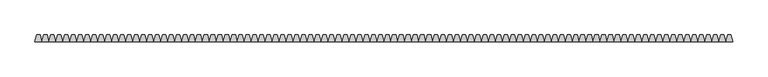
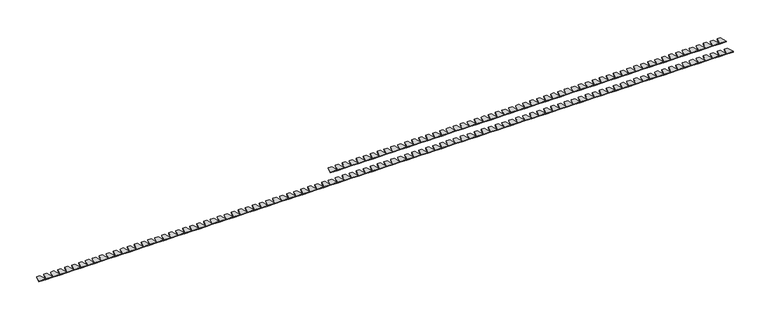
"""IFC4 building model written with IfcOpenShell, lengths in millimetres: duct fitting geometry, Частичная крышка шириной 40 мм - для кабель-канала DLP 65x195 - 2м - белый : 40мм."""

from ifc_helpers import new_model, si_unit, frame, origin, place, context, project, spatial, polyline, outline, extrude, source, transform, mapped, element, save


def duct_fitting_c62ac4ad(model_context):
    return source(origin(), model_context, "Body", "SweptSolid", [
        extrude(outline(polyline([(974.6410162, 20.0), (980.0, 0.0), (960.0, 0.0), (965.7349077, 20.0), (974.6410162, 20.0)])), frame((0.0, 0.0, -20.0), z_axis=(0.0, 0.0, 1.0), x_axis=(1.0, 0.0, 0.0)), (0.0, 0.0, 1.0), 2.0),
        extrude(outline(polyline([(954.6410162, 20.0), (960.0, 0.0), (940.0, 0.0), (945.7349077, 20.0), (954.6410162, 20.0)])), frame((0.0, 0.0, -20.0), z_axis=(0.0, 0.0, 1.0), x_axis=(1.0, 0.0, 0.0)), (0.0, 0.0, 1.0), 2.0),
        extrude(outline(polyline([(934.6410162, 20.0), (940.0, 0.0), (920.0, 0.0), (925.7349077, 20.0), (934.6410162, 20.0)])), frame((0.0, 0.0, -20.0), z_axis=(0.0, 0.0, 1.0), x_axis=(1.0, 0.0, 0.0)), (0.0, 0.0, 1.0), 2.0),
        extrude(outline(polyline([(914.6410162, 20.0), (920.0, 0.0), (900.0, 0.0), (905.7349077, 20.0), (914.6410162, 20.0)])), frame((0.0, 0.0, -20.0), z_axis=(0.0, 0.0, 1.0), x_axis=(1.0, 0.0, 0.0)), (0.0, 0.0, 1.0), 2.0),
        extrude(outline(polyline([(894.6410162, 20.0), (900.0, 0.0), (880.0, 0.0), (885.7349077, 20.0), (894.6410162, 20.0)])), frame((0.0, 0.0, -20.0), z_axis=(0.0, 0.0, 1.0), x_axis=(1.0, 0.0, 0.0)), (0.0, 0.0, 1.0), 2.0),
        extrude(outline(polyline([(874.6410162, 20.0), (880.0, 0.0), (860.0, 0.0), (865.7349077, 20.0), (874.6410162, 20.0)])), frame((0.0, 0.0, -20.0), z_axis=(0.0, 0.0, 1.0), x_axis=(1.0, 0.0, 0.0)), (0.0, 0.0, 1.0), 2.0),
        extrude(outline(polyline([(854.6410162, 20.0), (860.0, 0.0), (840.0, 0.0), (845.7349077, 20.0), (854.6410162, 20.0)])), frame((0.0, 0.0, -20.0), z_axis=(0.0, 0.0, 1.0), x_axis=(1.0, 0.0, 0.0)), (0.0, 0.0, 1.0), 2.0),
        extrude(outline(polyline([(834.6410162, 20.0), (840.0, 0.0), (820.0, 0.0), (825.7349077, 20.0), (834.6410162, 20.0)])), frame((0.0, 0.0, -20.0), z_axis=(0.0, 0.0, 1.0), x_axis=(1.0, 0.0, 0.0)), (0.0, 0.0, 1.0), 2.0),
        extrude(outline(polyline([(814.6410162, 20.0), (820.0, 0.0), (800.0, 0.0), (805.7349077, 20.0), (814.6410162, 20.0)])), frame((0.0, 0.0, -20.0), z_axis=(0.0, 0.0, 1.0), x_axis=(1.0, 0.0, 0.0)), (0.0, 0.0, 1.0), 2.0),
        extrude(outline(polyline([(794.6410162, 20.0), (800.0, 0.0), (780.0, 0.0), (785.7349077, 20.0), (794.6410162, 20.0)])), frame((0.0, 0.0, -20.0), z_axis=(0.0, 0.0, 1.0), x_axis=(1.0, 0.0, 0.0)), (0.0, 0.0, 1.0), 2.0),
        extrude(outline(polyline([(774.6410162, 20.0), (780.0, 0.0), (760.0, 0.0), (765.7349077, 20.0), (774.6410162, 20.0)])), frame((0.0, 0.0, -20.0), z_axis=(0.0, 0.0, 1.0), x_axis=(1.0, 0.0, 0.0)), (0.0, 0.0, 1.0), 2.0),
        extrude(outline(polyline([(754.6410162, 20.0), (760.0, 0.0), (740.0, 0.0), (745.7349077, 20.0), (754.6410162, 20.0)])), frame((0.0, 0.0, -20.0), z_axis=(0.0, 0.0, 1.0), x_axis=(1.0, 0.0, 0.0)), (0.0, 0.0, 1.0), 2.0),
        extrude(outline(polyline([(734.6410162, 20.0), (740.0, 0.0), (720.0, 0.0), (725.7349077, 20.0), (734.6410162, 20.0)])), frame((0.0, 0.0, -20.0), z_axis=(0.0, 0.0, 1.0), x_axis=(1.0, 0.0, 0.0)), (0.0, 0.0, 1.0), 2.0),
        extrude(outline(polyline([(714.6410162, 20.0), (720.0, 0.0), (700.0, 0.0), (705.7349077, 20.0), (714.6410162, 20.0)])), frame((0.0, 0.0, -20.0), z_axis=(0.0, 0.0, 1.0), x_axis=(1.0, 0.0, 0.0)), (0.0, 0.0, 1.0), 2.0),
        extrude(outline(polyline([(694.6410162, 20.0), (700.0, 0.0), (680.0, 0.0), (685.7349077, 20.0), (694.6410162, 20.0)])), frame((0.0, 0.0, -20.0), z_axis=(0.0, 0.0, 1.0), x_axis=(1.0, 0.0, 0.0)), (0.0, 0.0, 1.0), 2.0),
        extrude(outline(polyline([(674.6410162, 20.0), (680.0, 0.0), (660.0, 0.0), (665.7349077, 20.0), (674.6410162, 20.0)])), frame((0.0, 0.0, -20.0), z_axis=(0.0, 0.0, 1.0), x_axis=(1.0, 0.0, 0.0)), (0.0, 0.0, 1.0), 2.0),
        extrude(outline(polyline([(654.6410162, 20.0), (660.0, 0.0), (640.0, 0.0), (645.7349077, 20.0), (654.6410162, 20.0)])), frame((0.0, 0.0, -20.0), z_axis=(0.0, 0.0, 1.0), x_axis=(1.0, 0.0, 0.0)), (0.0, 0.0, 1.0), 2.0),
        extrude(outline(polyline([(634.6410162, 20.0), (640.0, 0.0), (620.0, 0.0), (625.7349077, 20.0), (634.6410162, 20.0)])), frame((0.0, 0.0, -20.0), z_axis=(0.0, 0.0, 1.0), x_axis=(1.0, 0.0, 0.0)), (0.0, 0.0, 1.0), 2.0),
        extrude(outline(polyline([(614.6410162, 20.0), (620.0, 0.0), (600.0, 0.0), (605.7349077, 20.0), (614.6410162, 20.0)])), frame((0.0, 0.0, -20.0), z_axis=(0.0, 0.0, 1.0), x_axis=(1.0, 0.0, 0.0)), (0.0, 0.0, 1.0), 2.0),
        extrude(outline(polyline([(594.6410162, 20.0), (600.0, 0.0), (580.0, 0.0), (585.7349077, 20.0), (594.6410162, 20.0)])), frame((0.0, 0.0, -20.0), z_axis=(0.0, 0.0, 1.0), x_axis=(1.0, 0.0, 0.0)), (0.0, 0.0, 1.0), 2.0),
        extrude(outline(polyline([(574.6410162, 20.0), (580.0, 0.0), (560.0, 0.0), (565.7349077, 20.0), (574.6410162, 20.0)])), frame((0.0, 0.0, -20.0), z_axis=(0.0, 0.0, 1.0), x_axis=(1.0, 0.0, 0.0)), (0.0, 0.0, 1.0), 2.0),
        extrude(outline(polyline([(554.6410162, 20.0), (560.0, 0.0), (540.0, 0.0), (545.7349077, 20.0), (554.6410162, 20.0)])), frame((0.0, 0.0, -20.0), z_axis=(0.0, 0.0, 1.0), x_axis=(1.0, 0.0, 0.0)), (0.0, 0.0, 1.0), 2.0),
        extrude(outline(polyline([(534.6410162, 20.0), (540.0, 0.0), (520.0, 0.0), (525.7349077, 20.0), (534.6410162, 20.0)])), frame((0.0, 0.0, -20.0), z_axis=(0.0, 0.0, 1.0), x_axis=(1.0, 0.0, 0.0)), (0.0, 0.0, 1.0), 2.0),
        extrude(outline(polyline([(514.6410162, 20.0), (520.0, 0.0), (500.0, 0.0), (505.7349077, 20.0), (514.6410162, 20.0)])), frame((0.0, 0.0, -20.0), z_axis=(0.0, 0.0, 1.0), x_axis=(1.0, 0.0, 0.0)), (0.0, 0.0, 1.0), 2.0),
        extrude(outline(polyline([(494.6410162, 20.0), (500.0, 0.0), (480.0, 0.0), (485.7349077, 20.0), (494.6410162, 20.0)])), frame((0.0, 0.0, -20.0), z_axis=(0.0, 0.0, 1.0), x_axis=(1.0, 0.0, 0.0)), (0.0, 0.0, 1.0), 2.0),
        extrude(outline(polyline([(474.6410162, 20.0), (480.0, 0.0), (460.0, 0.0), (465.7349077, 20.0), (474.6410162, 20.0)])), frame((0.0, 0.0, -20.0), z_axis=(0.0, 0.0, 1.0), x_axis=(1.0, 0.0, 0.0)), (0.0, 0.0, 1.0), 2.0),
        extrude(outline(polyline([(454.6410162, 20.0), (460.0, 0.0), (440.0, 0.0), (445.7349077, 20.0), (454.6410162, 20.0)])), frame((0.0, 0.0, -20.0), z_axis=(0.0, 0.0, 1.0), x_axis=(1.0, 0.0, 0.0)), (0.0, 0.0, 1.0), 2.0),
        extrude(outline(polyline([(434.6410162, 20.0), (440.0, 0.0), (420.0, 0.0), (425.7349077, 20.0), (434.6410162, 20.0)])), frame((0.0, 0.0, -20.0), z_axis=(0.0, 0.0, 1.0), x_axis=(1.0, 0.0, 0.0)), (0.0, 0.0, 1.0), 2.0),
        extrude(outline(polyline([(414.6410162, 20.0), (420.0, 0.0), (400.0, 0.0), (405.7349077, 20.0), (414.6410162, 20.0)])), frame((0.0, 0.0, -20.0), z_axis=(0.0, 0.0, 1.0), x_axis=(1.0, 0.0, 0.0)), (0.0, 0.0, 1.0), 2.0),
        extrude(outline(polyline([(394.6410162, 20.0), (400.0, 0.0), (380.0, 0.0), (385.7349077, 20.0), (394.6410162, 20.0)])), frame((0.0, 0.0, -20.0), z_axis=(0.0, 0.0, 1.0), x_axis=(1.0, 0.0, 0.0)), (0.0, 0.0, 1.0), 2.0),
        extrude(outline(polyline([(374.6410162, 20.0), (380.0, 0.0), (360.0, 0.0), (365.7349077, 20.0), (374.6410162, 20.0)])), frame((0.0, 0.0, -20.0), z_axis=(0.0, 0.0, 1.0), x_axis=(1.0, 0.0, 0.0)), (0.0, 0.0, 1.0), 2.0),
        extrude(outline(polyline([(354.6410162, 20.0), (360.0, 0.0), (340.0, 0.0), (345.7349077, 20.0), (354.6410162, 20.0)])), frame((0.0, 0.0, -20.0), z_axis=(0.0, 0.0, 1.0), x_axis=(1.0, 0.0, 0.0)), (0.0, 0.0, 1.0), 2.0),
        extrude(outline(polyline([(334.6410162, 20.0), (340.0, 0.0), (320.0, 0.0), (325.7349077, 20.0), (334.6410162, 20.0)])), frame((0.0, 0.0, -20.0), z_axis=(0.0, 0.0, 1.0), x_axis=(1.0, 0.0, 0.0)), (0.0, 0.0, 1.0), 2.0),
        extrude(outline(polyline([(314.6410162, 20.0), (320.0, 0.0), (300.0, 0.0), (305.7349077, 20.0), (314.6410162, 20.0)])), frame((0.0, 0.0, -20.0), z_axis=(0.0, 0.0, 1.0), x_axis=(1.0, 0.0, 0.0)), (0.0, 0.0, 1.0), 2.0),
        extrude(outline(polyline([(294.6410162, 20.0), (300.0, 0.0), (280.0, 0.0), (285.7349077, 20.0), (294.6410162, 20.0)])), frame((0.0, 0.0, -20.0), z_axis=(0.0, 0.0, 1.0), x_axis=(1.0, 0.0, 0.0)), (0.0, 0.0, 1.0), 2.0),
        extrude(outline(polyline([(274.6410162, 20.0), (280.0, 0.0), (260.0, 0.0), (265.7349077, 20.0), (274.6410162, 20.0)])), frame((0.0, 0.0, -20.0), z_axis=(0.0, 0.0, 1.0), x_axis=(1.0, 0.0, 0.0)), (0.0, 0.0, 1.0), 2.0),
        extrude(outline(polyline([(254.6410162, 20.0), (260.0, 0.0), (240.0, 0.0), (245.7349077, 20.0), (254.6410162, 20.0)])), frame((0.0, 0.0, -20.0), z_axis=(0.0, 0.0, 1.0), x_axis=(1.0, 0.0, 0.0)), (0.0, 0.0, 1.0), 2.0),
        extrude(outline(polyline([(234.6410162, 20.0), (240.0, 0.0), (220.0, 0.0), (225.7349077, 20.0), (234.6410162, 20.0)])), frame((0.0, 0.0, -20.0), z_axis=(0.0, 0.0, 1.0), x_axis=(1.0, 0.0, 0.0)), (0.0, 0.0, 1.0), 2.0),
        extrude(outline(polyline([(214.6410162, 20.0), (220.0, 0.0), (200.0, 0.0), (205.7349077, 20.0), (214.6410162, 20.0)])), frame((0.0, 0.0, -20.0), z_axis=(0.0, 0.0, 1.0), x_axis=(1.0, 0.0, 0.0)), (0.0, 0.0, 1.0), 2.0),
        extrude(outline(polyline([(194.6410162, 20.0), (200.0, 0.0), (180.0, 0.0), (185.7349077, 20.0), (194.6410162, 20.0)])), frame((0.0, 0.0, -20.0), z_axis=(0.0, 0.0, 1.0), x_axis=(1.0, 0.0, 0.0)), (0.0, 0.0, 1.0), 2.0),
        extrude(outline(polyline([(174.6410162, 20.0), (180.0, 0.0), (160.0, 0.0), (165.7349077, 20.0), (174.6410162, 20.0)])), frame((0.0, 0.0, -20.0), z_axis=(0.0, 0.0, 1.0), x_axis=(1.0, 0.0, 0.0)), (0.0, 0.0, 1.0), 2.0),
        extrude(outline(polyline([(154.6410162, 20.0), (160.0, 0.0), (140.0, 0.0), (145.7349077, 20.0), (154.6410162, 20.0)])), frame((0.0, 0.0, -20.0), z_axis=(0.0, 0.0, 1.0), x_axis=(1.0, 0.0, 0.0)), (0.0, 0.0, 1.0), 2.0),
        extrude(outline(polyline([(134.6410162, 20.0), (140.0, 0.0), (120.0, 0.0), (125.7349077, 20.0), (134.6410162, 20.0)])), frame((0.0, 0.0, -20.0), z_axis=(0.0, 0.0, 1.0), x_axis=(1.0, 0.0, 0.0)), (0.0, 0.0, 1.0), 2.0),
        extrude(outline(polyline([(114.6410162, 20.0), (120.0, 0.0), (100.0, 0.0), (105.7349077, 20.0), (114.6410162, 20.0)])), frame((0.0, 0.0, -20.0), z_axis=(0.0, 0.0, 1.0), x_axis=(1.0, 0.0, 0.0)), (0.0, 0.0, 1.0), 2.0),
        extrude(outline(polyline([(94.6410162, 20.0), (100.0, 0.0), (80.0, 0.0), (85.7349077, 20.0), (94.6410162, 20.0)])), frame((0.0, 0.0, -20.0), z_axis=(0.0, 0.0, 1.0), x_axis=(1.0, 0.0, 0.0)), (0.0, 0.0, 1.0), 2.0),
        extrude(outline(polyline([(74.6410162, 20.0), (80.0, 0.0), (60.0, 0.0), (65.7349077, 20.0), (74.6410162, 20.0)])), frame((0.0, 0.0, -20.0), z_axis=(0.0, 0.0, 1.0), x_axis=(1.0, 0.0, 0.0)), (0.0, 0.0, 1.0), 2.0),
        extrude(outline(polyline([(54.6410162, 20.0), (60.0, 0.0), (40.0, 0.0), (45.7349077, 20.0), (54.6410162, 20.0)])), frame((0.0, 0.0, -20.0), z_axis=(0.0, 0.0, 1.0), x_axis=(1.0, 0.0, 0.0)), (0.0, 0.0, 1.0), 2.0),
        extrude(outline(polyline([(34.6410162, 20.0), (40.0, 0.0), (20.0, 0.0), (25.7349077, 20.0), (34.6410162, 20.0)])), frame((0.0, 0.0, -20.0), z_axis=(0.0, 0.0, 1.0), x_axis=(1.0, 0.0, 0.0)), (0.0, 0.0, 1.0), 2.0),
        extrude(outline(polyline([(14.6410162, 20.0), (20.0, 0.0), (0.0, 0.0), (5.7349077, 20.0), (14.6410162, 20.0)])), frame((0.0, 0.0, -20.0), z_axis=(0.0, 0.0, 1.0), x_axis=(1.0, 0.0, 0.0)), (0.0, 0.0, 1.0), 2.0),
        extrude(outline(polyline([(-5.3589838, 20.0), (0.0, 0.0), (-20.0, 0.0), (-14.2650923, 20.0), (-5.3589838, 20.0)])), frame((0.0, 0.0, -20.0), z_axis=(0.0, 0.0, 1.0), x_axis=(1.0, 0.0, 0.0)), (0.0, 0.0, 1.0), 2.0),
        extrude(outline(polyline([(-25.3589838, 20.0), (-20.0, 0.0), (-40.0, 0.0), (-34.2650923, 20.0), (-25.3589838, 20.0)])), frame((0.0, 0.0, -20.0), z_axis=(0.0, 0.0, 1.0), x_axis=(1.0, 0.0, 0.0)), (0.0, 0.0, 1.0), 2.0),
        extrude(outline(polyline([(-45.3589838, 20.0), (-40.0, 0.0), (-60.0, 0.0), (-54.2650923, 20.0), (-45.3589838, 20.0)])), frame((0.0, 0.0, -20.0), z_axis=(0.0, 0.0, 1.0), x_axis=(1.0, 0.0, 0.0)), (0.0, 0.0, 1.0), 2.0),
        extrude(outline(polyline([(-65.3589838, 20.0), (-60.0, 0.0), (-80.0, 0.0), (-74.2650923, 20.0), (-65.3589838, 20.0)])), frame((0.0, 0.0, -20.0), z_axis=(0.0, 0.0, 1.0), x_axis=(1.0, 0.0, 0.0)), (0.0, 0.0, 1.0), 2.0),
        extrude(outline(polyline([(-85.3589838, 20.0), (-80.0, 0.0), (-100.0, 0.0), (-94.2650923, 20.0), (-85.3589838, 20.0)])), frame((0.0, 0.0, -20.0), z_axis=(0.0, 0.0, 1.0), x_axis=(1.0, 0.0, 0.0)), (0.0, 0.0, 1.0), 2.0),
        extrude(outline(polyline([(-105.3589838, 20.0), (-100.0, 0.0), (-120.0, 0.0), (-114.2650923, 20.0), (-105.3589838, 20.0)])), frame((0.0, 0.0, -20.0), z_axis=(0.0, 0.0, 1.0), x_axis=(1.0, 0.0, 0.0)), (0.0, 0.0, 1.0), 2.0),
        extrude(outline(polyline([(-125.3589838, 20.0), (-120.0, 0.0), (-140.0, 0.0), (-134.2650923, 20.0), (-125.3589838, 20.0)])), frame((0.0, 0.0, -20.0), z_axis=(0.0, 0.0, 1.0), x_axis=(1.0, 0.0, 0.0)), (0.0, 0.0, 1.0), 2.0),
        extrude(outline(polyline([(-145.3589838, 20.0), (-140.0, 0.0), (-160.0, 0.0), (-154.2650923, 20.0), (-145.3589838, 20.0)])), frame((0.0, 0.0, -20.0), z_axis=(0.0, 0.0, 1.0), x_axis=(1.0, 0.0, 0.0)), (0.0, 0.0, 1.0), 2.0),
        extrude(outline(polyline([(-165.3589838, 20.0), (-160.0, 0.0), (-180.0, 0.0), (-174.2650923, 20.0), (-165.3589838, 20.0)])), frame((0.0, 0.0, -20.0), z_axis=(0.0, 0.0, 1.0), x_axis=(1.0, 0.0, 0.0)), (0.0, 0.0, 1.0), 2.0),
        extrude(outline(polyline([(-185.3589838, 20.0), (-180.0, 0.0), (-200.0, 0.0), (-194.2650923, 20.0), (-185.3589838, 20.0)])), frame((0.0, 0.0, -20.0), z_axis=(0.0, 0.0, 1.0), x_axis=(1.0, 0.0, 0.0)), (0.0, 0.0, 1.0), 2.0),
        extrude(outline(polyline([(-205.3589838, 20.0), (-200.0, 0.0), (-220.0, 0.0), (-214.2650923, 20.0), (-205.3589838, 20.0)])), frame((0.0, 0.0, -20.0), z_axis=(0.0, 0.0, 1.0), x_axis=(1.0, 0.0, 0.0)), (0.0, 0.0, 1.0), 2.0),
        extrude(outline(polyline([(-225.3589838, 20.0), (-220.0, 0.0), (-240.0, 0.0), (-234.2650923, 20.0), (-225.3589838, 20.0)])), frame((0.0, 0.0, -20.0), z_axis=(0.0, 0.0, 1.0), x_axis=(1.0, 0.0, 0.0)), (0.0, 0.0, 1.0), 2.0),
        extrude(outline(polyline([(-245.3589838, 20.0), (-240.0, 0.0), (-260.0, 0.0), (-254.2650923, 20.0), (-245.3589838, 20.0)])), frame((0.0, 0.0, -20.0), z_axis=(0.0, 0.0, 1.0), x_axis=(1.0, 0.0, 0.0)), (0.0, 0.0, 1.0), 2.0),
        extrude(outline(polyline([(-265.3589838, 20.0), (-260.0, 0.0), (-280.0, 0.0), (-274.2650923, 20.0), (-265.3589838, 20.0)])), frame((0.0, 0.0, -20.0), z_axis=(0.0, 0.0, 1.0), x_axis=(1.0, 0.0, 0.0)), (0.0, 0.0, 1.0), 2.0),
        extrude(outline(polyline([(-285.3589838, 20.0), (-280.0, 0.0), (-300.0, 0.0), (-294.2650923, 20.0), (-285.3589838, 20.0)])), frame((0.0, 0.0, -20.0), z_axis=(0.0, 0.0, 1.0), x_axis=(1.0, 0.0, 0.0)), (0.0, 0.0, 1.0), 2.0),
        extrude(outline(polyline([(-305.3589838, 20.0), (-300.0, 0.0), (-320.0, 0.0), (-314.2650923, 20.0), (-305.3589838, 20.0)])), frame((0.0, 0.0, -20.0), z_axis=(0.0, 0.0, 1.0), x_axis=(1.0, 0.0, 0.0)), (0.0, 0.0, 1.0), 2.0),
        extrude(outline(polyline([(-325.3589838, 20.0), (-320.0, 0.0), (-340.0, 0.0), (-334.2650923, 20.0), (-325.3589838, 20.0)])), frame((0.0, 0.0, -20.0), z_axis=(0.0, 0.0, 1.0), x_axis=(1.0, 0.0, 0.0)), (0.0, 0.0, 1.0), 2.0),
        extrude(outline(polyline([(-345.3589838, 20.0), (-340.0, 0.0), (-360.0, 0.0), (-354.2650923, 20.0), (-345.3589838, 20.0)])), frame((0.0, 0.0, -20.0), z_axis=(0.0, 0.0, 1.0), x_axis=(1.0, 0.0, 0.0)), (0.0, 0.0, 1.0), 2.0),
        extrude(outline(polyline([(-365.3589838, 20.0), (-360.0, 0.0), (-380.0, 0.0), (-374.2650923, 20.0), (-365.3589838, 20.0)])), frame((0.0, 0.0, -20.0), z_axis=(0.0, 0.0, 1.0), x_axis=(1.0, 0.0, 0.0)), (0.0, 0.0, 1.0), 2.0),
        extrude(outline(polyline([(-385.3589838, 20.0), (-380.0, 0.0), (-400.0, 0.0), (-394.2650923, 20.0), (-385.3589838, 20.0)])), frame((0.0, 0.0, -20.0), z_axis=(0.0, 0.0, 1.0), x_axis=(1.0, 0.0, 0.0)), (0.0, 0.0, 1.0), 2.0),
        extrude(outline(polyline([(-405.3589838, 20.0), (-400.0, 0.0), (-420.0, 0.0), (-414.2650923, 20.0), (-405.3589838, 20.0)])), frame((0.0, 0.0, -20.0), z_axis=(0.0, 0.0, 1.0), x_axis=(1.0, 0.0, 0.0)), (0.0, 0.0, 1.0), 2.0),
        extrude(outline(polyline([(-425.3589838, 20.0), (-420.0, 0.0), (-440.0, 0.0), (-434.2650923, 20.0), (-425.3589838, 20.0)])), frame((0.0, 0.0, -20.0), z_axis=(0.0, 0.0, 1.0), x_axis=(1.0, 0.0, 0.0)), (0.0, 0.0, 1.0), 2.0),
        extrude(outline(polyline([(-445.3589838, 20.0), (-440.0, 0.0), (-460.0, 0.0), (-454.2650923, 20.0), (-445.3589838, 20.0)])), frame((0.0, 0.0, -20.0), z_axis=(0.0, 0.0, 1.0), x_axis=(1.0, 0.0, 0.0)), (0.0, 0.0, 1.0), 2.0),
        extrude(outline(polyline([(-465.3589838, 20.0), (-460.0, 0.0), (-480.0, 0.0), (-474.2650923, 20.0), (-465.3589838, 20.0)])), frame((0.0, 0.0, -20.0), z_axis=(0.0, 0.0, 1.0), x_axis=(1.0, 0.0, 0.0)), (0.0, 0.0, 1.0), 2.0),
        extrude(outline(polyline([(-485.3589838, 20.0), (-480.0, 0.0), (-500.0, 0.0), (-494.2650923, 20.0), (-485.3589838, 20.0)])), frame((0.0, 0.0, -20.0), z_axis=(0.0, 0.0, 1.0), x_axis=(1.0, 0.0, 0.0)), (0.0, 0.0, 1.0), 2.0),
        extrude(outline(polyline([(-505.3589838, 20.0), (-500.0, 0.0), (-520.0, 0.0), (-514.2650923, 20.0), (-505.3589838, 20.0)])), frame((0.0, 0.0, -20.0), z_axis=(0.0, 0.0, 1.0), x_axis=(1.0, 0.0, 0.0)), (0.0, 0.0, 1.0), 2.0),
        extrude(outline(polyline([(-525.3589838, 20.0), (-520.0, 0.0), (-540.0, 0.0), (-534.2650923, 20.0), (-525.3589838, 20.0)])), frame((0.0, 0.0, -20.0), z_axis=(0.0, 0.0, 1.0), x_axis=(1.0, 0.0, 0.0)), (0.0, 0.0, 1.0), 2.0),
        extrude(outline(polyline([(-545.3589838, 20.0), (-540.0, 0.0), (-560.0, 0.0), (-554.2650923, 20.0), (-545.3589838, 20.0)])), frame((0.0, 0.0, -20.0), z_axis=(0.0, 0.0, 1.0), x_axis=(1.0, 0.0, 0.0)), (0.0, 0.0, 1.0), 2.0),
        extrude(outline(polyline([(-565.3589838, 20.0), (-560.0, 0.0), (-580.0, 0.0), (-574.2650923, 20.0), (-565.3589838, 20.0)])), frame((0.0, 0.0, -20.0), z_axis=(0.0, 0.0, 1.0), x_axis=(1.0, 0.0, 0.0)), (0.0, 0.0, 1.0), 2.0),
        extrude(outline(polyline([(-585.3589838, 20.0), (-580.0, 0.0), (-600.0, 0.0), (-594.2650923, 20.0), (-585.3589838, 20.0)])), frame((0.0, 0.0, -20.0), z_axis=(0.0, 0.0, 1.0), x_axis=(1.0, 0.0, 0.0)), (0.0, 0.0, 1.0), 2.0),
        extrude(outline(polyline([(-605.3589838, 20.0), (-600.0, 0.0), (-620.0, 0.0), (-614.2650923, 20.0), (-605.3589838, 20.0)])), frame((0.0, 0.0, -20.0), z_axis=(0.0, 0.0, 1.0), x_axis=(1.0, 0.0, 0.0)), (0.0, 0.0, 1.0), 2.0),
        extrude(outline(polyline([(-625.3589838, 20.0), (-620.0, 0.0), (-640.0, 0.0), (-634.2650923, 20.0), (-625.3589838, 20.0)])), frame((0.0, 0.0, -20.0), z_axis=(0.0, 0.0, 1.0), x_axis=(1.0, 0.0, 0.0)), (0.0, 0.0, 1.0), 2.0),
        extrude(outline(polyline([(-645.3589838, 20.0), (-640.0, 0.0), (-660.0, 0.0), (-654.2650923, 20.0), (-645.3589838, 20.0)])), frame((0.0, 0.0, -20.0), z_axis=(0.0, 0.0, 1.0), x_axis=(1.0, 0.0, 0.0)), (0.0, 0.0, 1.0), 2.0),
        extrude(outline(polyline([(-665.3589838, 20.0), (-660.0, 0.0), (-680.0, 0.0), (-674.2650923, 20.0), (-665.3589838, 20.0)])), frame((0.0, 0.0, -20.0), z_axis=(0.0, 0.0, 1.0), x_axis=(1.0, 0.0, 0.0)), (0.0, 0.0, 1.0), 2.0),
        extrude(outline(polyline([(-685.3589838, 20.0), (-680.0, 0.0), (-700.0, 0.0), (-694.2650923, 20.0), (-685.3589838, 20.0)])), frame((0.0, 0.0, -20.0), z_axis=(0.0, 0.0, 1.0), x_axis=(1.0, 0.0, 0.0)), (0.0, 0.0, 1.0), 2.0),
        extrude(outline(polyline([(-705.3589838, 20.0), (-700.0, 0.0), (-720.0, 0.0), (-714.2650923, 20.0), (-705.3589838, 20.0)])), frame((0.0, 0.0, -20.0), z_axis=(0.0, 0.0, 1.0), x_axis=(1.0, 0.0, 0.0)), (0.0, 0.0, 1.0), 2.0),
        extrude(outline(polyline([(-725.3589838, 20.0), (-720.0, 0.0), (-740.0, 0.0), (-734.2650923, 20.0), (-725.3589838, 20.0)])), frame((0.0, 0.0, -20.0), z_axis=(0.0, 0.0, 1.0), x_axis=(1.0, 0.0, 0.0)), (0.0, 0.0, 1.0), 2.0),
        extrude(outline(polyline([(-745.3589838, 20.0), (-740.0, 0.0), (-760.0, 0.0), (-754.2650923, 20.0), (-745.3589838, 20.0)])), frame((0.0, 0.0, -20.0), z_axis=(0.0, 0.0, 1.0), x_axis=(1.0, 0.0, 0.0)), (0.0, 0.0, 1.0), 2.0),
        extrude(outline(polyline([(-765.3589838, 20.0), (-760.0, 0.0), (-780.0, 0.0), (-774.2650923, 20.0), (-765.3589838, 20.0)])), frame((0.0, 0.0, -20.0), z_axis=(0.0, 0.0, 1.0), x_axis=(1.0, 0.0, 0.0)), (0.0, 0.0, 1.0), 2.0),
        extrude(outline(polyline([(-785.3589838, 20.0), (-780.0, 0.0), (-800.0, 0.0), (-794.2650923, 20.0), (-785.3589838, 20.0)])), frame((0.0, 0.0, -20.0), z_axis=(0.0, 0.0, 1.0), x_axis=(1.0, 0.0, 0.0)), (0.0, 0.0, 1.0), 2.0),
        extrude(outline(polyline([(-805.3589838, 20.0), (-800.0, 0.0), (-820.0, 0.0), (-814.2650923, 20.0), (-805.3589838, 20.0)])), frame((0.0, 0.0, -20.0), z_axis=(0.0, 0.0, 1.0), x_axis=(1.0, 0.0, 0.0)), (0.0, 0.0, 1.0), 2.0),
        extrude(outline(polyline([(-825.3589838, 20.0), (-820.0, 0.0), (-840.0, 0.0), (-834.2650923, 20.0), (-825.3589838, 20.0)])), frame((0.0, 0.0, -20.0), z_axis=(0.0, 0.0, 1.0), x_axis=(1.0, 0.0, 0.0)), (0.0, 0.0, 1.0), 2.0),
        extrude(outline(polyline([(-845.3589838, 20.0), (-840.0, 0.0), (-860.0, 0.0), (-854.2650923, 20.0), (-845.3589838, 20.0)])), frame((0.0, 0.0, -20.0), z_axis=(0.0, 0.0, 1.0), x_axis=(1.0, 0.0, 0.0)), (0.0, 0.0, 1.0), 2.0),
        extrude(outline(polyline([(-865.3589838, 20.0), (-860.0, 0.0), (-880.0, 0.0), (-874.2650923, 20.0), (-865.3589838, 20.0)])), frame((0.0, 0.0, -20.0), z_axis=(0.0, 0.0, 1.0), x_axis=(1.0, 0.0, 0.0)), (0.0, 0.0, 1.0), 2.0),
        extrude(outline(polyline([(-885.3589838, 20.0), (-880.0, 0.0), (-900.0, 0.0), (-894.2650923, 20.0), (-885.3589838, 20.0)])), frame((0.0, 0.0, -20.0), z_axis=(0.0, 0.0, 1.0), x_axis=(1.0, 0.0, 0.0)), (0.0, 0.0, 1.0), 2.0),
        extrude(outline(polyline([(-905.3589838, 20.0), (-900.0, 0.0), (-920.0, 0.0), (-914.2650923, 20.0), (-905.3589838, 20.0)])), frame((0.0, 0.0, -20.0), z_axis=(0.0, 0.0, 1.0), x_axis=(1.0, 0.0, 0.0)), (0.0, 0.0, 1.0), 2.0),
        extrude(outline(polyline([(-925.3589838, 20.0), (-920.0, 0.0), (-940.0, 0.0), (-934.2650923, 20.0), (-925.3589838, 20.0)])), frame((0.0, 0.0, -20.0), z_axis=(0.0, 0.0, 1.0), x_axis=(1.0, 0.0, 0.0)), (0.0, 0.0, 1.0), 2.0),
        extrude(outline(polyline([(-945.3589838, 20.0), (-940.0, 0.0), (-960.0, 0.0), (-954.2650923, 20.0), (-945.3589838, 20.0)])), frame((0.0, 0.0, -20.0), z_axis=(0.0, 0.0, 1.0), x_axis=(1.0, 0.0, 0.0)), (0.0, 0.0, 1.0), 2.0),
        extrude(outline(polyline([(-965.3589838, 20.0), (-960.0, 0.0), (-980.0, 0.0), (-974.2650923, 20.0), (-965.3589838, 20.0)])), frame((0.0, 0.0, -20.0), z_axis=(0.0, 0.0, 1.0), x_axis=(1.0, 0.0, 0.0)), (0.0, 0.0, 1.0), 2.0),
        extrude(outline(polyline([(994.6410162, 20.0), (1000.0, 0.0), (980.0, 0.0), (985.7349077, 20.0), (994.6410162, 20.0)])), frame((0.0, 0.0, -20.0), z_axis=(0.0, 0.0, 1.0), x_axis=(1.0, 0.0, 0.0)), (0.0, 0.0, 1.0), 2.0),
        extrude(outline(polyline([(-985.3589838, 20.0), (-980.0, 0.0), (-1000.0, 0.0), (-994.2650923, 20.0), (-985.3589838, 20.0)])), frame((0.0, 0.0, -20.0), z_axis=(0.0, 0.0, 1.0), x_axis=(1.0, 0.0, 0.0)), (0.0, 0.0, 1.0), 2.0),
        extrude(outline(polyline([(974.6410162, 20.0), (980.0, 0.0), (960.0, 0.0), (965.7349077, 20.0), (974.6410162, 20.0)])), frame((0.0, 0.0, 18.0), z_axis=(0.0, 0.0, 1.0), x_axis=(1.0, 0.0, 0.0)), (0.0, 0.0, 1.0), 2.0),
        extrude(outline(polyline([(954.6410162, 20.0), (960.0, 0.0), (940.0, 0.0), (945.7349077, 20.0), (954.6410162, 20.0)])), frame((0.0, 0.0, 18.0), z_axis=(0.0, 0.0, 1.0), x_axis=(1.0, 0.0, 0.0)), (0.0, 0.0, 1.0), 2.0),
        extrude(outline(polyline([(934.6410162, 20.0), (940.0, 0.0), (920.0, 0.0), (925.7349077, 20.0), (934.6410162, 20.0)])), frame((0.0, 0.0, 18.0), z_axis=(0.0, 0.0, 1.0), x_axis=(1.0, 0.0, 0.0)), (0.0, 0.0, 1.0), 2.0),
        extrude(outline(polyline([(914.6410162, 20.0), (920.0, 0.0), (900.0, 0.0), (905.7349077, 20.0), (914.6410162, 20.0)])), frame((0.0, 0.0, 18.0), z_axis=(0.0, 0.0, 1.0), x_axis=(1.0, 0.0, 0.0)), (0.0, 0.0, 1.0), 2.0),
        extrude(outline(polyline([(894.6410162, 20.0), (900.0, 0.0), (880.0, 0.0), (885.7349077, 20.0), (894.6410162, 20.0)])), frame((0.0, 0.0, 18.0), z_axis=(0.0, 0.0, 1.0), x_axis=(1.0, 0.0, 0.0)), (0.0, 0.0, 1.0), 2.0),
        extrude(outline(polyline([(874.6410162, 20.0), (880.0, 0.0), (860.0, 0.0), (865.7349077, 20.0), (874.6410162, 20.0)])), frame((0.0, 0.0, 18.0), z_axis=(0.0, 0.0, 1.0), x_axis=(1.0, 0.0, 0.0)), (0.0, 0.0, 1.0), 2.0),
        extrude(outline(polyline([(854.6410162, 20.0), (860.0, 0.0), (840.0, 0.0), (845.7349077, 20.0), (854.6410162, 20.0)])), frame((0.0, 0.0, 18.0), z_axis=(0.0, 0.0, 1.0), x_axis=(1.0, 0.0, 0.0)), (0.0, 0.0, 1.0), 2.0),
        extrude(outline(polyline([(834.6410162, 20.0), (840.0, 0.0), (820.0, 0.0), (825.7349077, 20.0), (834.6410162, 20.0)])), frame((0.0, 0.0, 18.0), z_axis=(0.0, 0.0, 1.0), x_axis=(1.0, 0.0, 0.0)), (0.0, 0.0, 1.0), 2.0),
        extrude(outline(polyline([(814.6410162, 20.0), (820.0, 0.0), (800.0, 0.0), (805.7349077, 20.0), (814.6410162, 20.0)])), frame((0.0, 0.0, 18.0), z_axis=(0.0, 0.0, 1.0), x_axis=(1.0, 0.0, 0.0)), (0.0, 0.0, 1.0), 2.0),
        extrude(outline(polyline([(794.6410162, 20.0), (800.0, 0.0), (780.0, 0.0), (785.7349077, 20.0), (794.6410162, 20.0)])), frame((0.0, 0.0, 18.0), z_axis=(0.0, 0.0, 1.0), x_axis=(1.0, 0.0, 0.0)), (0.0, 0.0, 1.0), 2.0),
        extrude(outline(polyline([(774.6410162, 20.0), (780.0, 0.0), (760.0, 0.0), (765.7349077, 20.0), (774.6410162, 20.0)])), frame((0.0, 0.0, 18.0), z_axis=(0.0, 0.0, 1.0), x_axis=(1.0, 0.0, 0.0)), (0.0, 0.0, 1.0), 2.0),
        extrude(outline(polyline([(754.6410162, 20.0), (760.0, 0.0), (740.0, 0.0), (745.7349077, 20.0), (754.6410162, 20.0)])), frame((0.0, 0.0, 18.0), z_axis=(0.0, 0.0, 1.0), x_axis=(1.0, 0.0, 0.0)), (0.0, 0.0, 1.0), 2.0),
        extrude(outline(polyline([(734.6410162, 20.0), (740.0, 0.0), (720.0, 0.0), (725.7349077, 20.0), (734.6410162, 20.0)])), frame((0.0, 0.0, 18.0), z_axis=(0.0, 0.0, 1.0), x_axis=(1.0, 0.0, 0.0)), (0.0, 0.0, 1.0), 2.0),
        extrude(outline(polyline([(714.6410162, 20.0), (720.0, 0.0), (700.0, 0.0), (705.7349077, 20.0), (714.6410162, 20.0)])), frame((0.0, 0.0, 18.0), z_axis=(0.0, 0.0, 1.0), x_axis=(1.0, 0.0, 0.0)), (0.0, 0.0, 1.0), 2.0),
        extrude(outline(polyline([(694.6410162, 20.0), (700.0, 0.0), (680.0, 0.0), (685.7349077, 20.0), (694.6410162, 20.0)])), frame((0.0, 0.0, 18.0), z_axis=(0.0, 0.0, 1.0), x_axis=(1.0, 0.0, 0.0)), (0.0, 0.0, 1.0), 2.0),
        extrude(outline(polyline([(674.6410162, 20.0), (680.0, 0.0), (660.0, 0.0), (665.7349077, 20.0), (674.6410162, 20.0)])), frame((0.0, 0.0, 18.0), z_axis=(0.0, 0.0, 1.0), x_axis=(1.0, 0.0, 0.0)), (0.0, 0.0, 1.0), 2.0),
        extrude(outline(polyline([(654.6410162, 20.0), (660.0, 0.0), (640.0, 0.0), (645.7349077, 20.0), (654.6410162, 20.0)])), frame((0.0, 0.0, 18.0), z_axis=(0.0, 0.0, 1.0), x_axis=(1.0, 0.0, 0.0)), (0.0, 0.0, 1.0), 2.0),
        extrude(outline(polyline([(634.6410162, 20.0), (640.0, 0.0), (620.0, 0.0), (625.7349077, 20.0), (634.6410162, 20.0)])), frame((0.0, 0.0, 18.0), z_axis=(0.0, 0.0, 1.0), x_axis=(1.0, 0.0, 0.0)), (0.0, 0.0, 1.0), 2.0),
        extrude(outline(polyline([(614.6410162, 20.0), (620.0, 0.0), (600.0, 0.0), (605.7349077, 20.0), (614.6410162, 20.0)])), frame((0.0, 0.0, 18.0), z_axis=(0.0, 0.0, 1.0), x_axis=(1.0, 0.0, 0.0)), (0.0, 0.0, 1.0), 2.0),
        extrude(outline(polyline([(594.6410162, 20.0), (600.0, 0.0), (580.0, 0.0), (585.7349077, 20.0), (594.6410162, 20.0)])), frame((0.0, 0.0, 18.0), z_axis=(0.0, 0.0, 1.0), x_axis=(1.0, 0.0, 0.0)), (0.0, 0.0, 1.0), 2.0),
        extrude(outline(polyline([(574.6410162, 20.0), (580.0, 0.0), (560.0, 0.0), (565.7349077, 20.0), (574.6410162, 20.0)])), frame((0.0, 0.0, 18.0), z_axis=(0.0, 0.0, 1.0), x_axis=(1.0, 0.0, 0.0)), (0.0, 0.0, 1.0), 2.0),
        extrude(outline(polyline([(554.6410162, 20.0), (560.0, 0.0), (540.0, 0.0), (545.7349077, 20.0), (554.6410162, 20.0)])), frame((0.0, 0.0, 18.0), z_axis=(0.0, 0.0, 1.0), x_axis=(1.0, 0.0, 0.0)), (0.0, 0.0, 1.0), 2.0),
        extrude(outline(polyline([(534.6410162, 20.0), (540.0, 0.0), (520.0, 0.0), (525.7349077, 20.0), (534.6410162, 20.0)])), frame((0.0, 0.0, 18.0), z_axis=(0.0, 0.0, 1.0), x_axis=(1.0, 0.0, 0.0)), (0.0, 0.0, 1.0), 2.0),
        extrude(outline(polyline([(514.6410162, 20.0), (520.0, 0.0), (500.0, 0.0), (505.7349077, 20.0), (514.6410162, 20.0)])), frame((0.0, 0.0, 18.0), z_axis=(0.0, 0.0, 1.0), x_axis=(1.0, 0.0, 0.0)), (0.0, 0.0, 1.0), 2.0),
        extrude(outline(polyline([(494.6410162, 20.0), (500.0, 0.0), (480.0, 0.0), (485.7349077, 20.0), (494.6410162, 20.0)])), frame((0.0, 0.0, 18.0), z_axis=(0.0, 0.0, 1.0), x_axis=(1.0, 0.0, 0.0)), (0.0, 0.0, 1.0), 2.0),
        extrude(outline(polyline([(474.6410162, 20.0), (480.0, 0.0), (460.0, 0.0), (465.7349077, 20.0), (474.6410162, 20.0)])), frame((0.0, 0.0, 18.0), z_axis=(0.0, 0.0, 1.0), x_axis=(1.0, 0.0, 0.0)), (0.0, 0.0, 1.0), 2.0),
        extrude(outline(polyline([(454.6410162, 20.0), (460.0, 0.0), (440.0, 0.0), (445.7349077, 20.0), (454.6410162, 20.0)])), frame((0.0, 0.0, 18.0), z_axis=(0.0, 0.0, 1.0), x_axis=(1.0, 0.0, 0.0)), (0.0, 0.0, 1.0), 2.0),
        extrude(outline(polyline([(434.6410162, 20.0), (440.0, 0.0), (420.0, 0.0), (425.7349077, 20.0), (434.6410162, 20.0)])), frame((0.0, 0.0, 18.0), z_axis=(0.0, 0.0, 1.0), x_axis=(1.0, 0.0, 0.0)), (0.0, 0.0, 1.0), 2.0),
        extrude(outline(polyline([(414.6410162, 20.0), (420.0, 0.0), (400.0, 0.0), (405.7349077, 20.0), (414.6410162, 20.0)])), frame((0.0, 0.0, 18.0), z_axis=(0.0, 0.0, 1.0), x_axis=(1.0, 0.0, 0.0)), (0.0, 0.0, 1.0), 2.0),
        extrude(outline(polyline([(394.6410162, 20.0), (400.0, 0.0), (380.0, 0.0), (385.7349077, 20.0), (394.6410162, 20.0)])), frame((0.0, 0.0, 18.0), z_axis=(0.0, 0.0, 1.0), x_axis=(1.0, 0.0, 0.0)), (0.0, 0.0, 1.0), 2.0),
        extrude(outline(polyline([(374.6410162, 20.0), (380.0, 0.0), (360.0, 0.0), (365.7349077, 20.0), (374.6410162, 20.0)])), frame((0.0, 0.0, 18.0), z_axis=(0.0, 0.0, 1.0), x_axis=(1.0, 0.0, 0.0)), (0.0, 0.0, 1.0), 2.0),
        extrude(outline(polyline([(354.6410162, 20.0), (360.0, 0.0), (340.0, 0.0), (345.7349077, 20.0), (354.6410162, 20.0)])), frame((0.0, 0.0, 18.0), z_axis=(0.0, 0.0, 1.0), x_axis=(1.0, 0.0, 0.0)), (0.0, 0.0, 1.0), 2.0),
        extrude(outline(polyline([(334.6410162, 20.0), (340.0, 0.0), (320.0, 0.0), (325.7349077, 20.0), (334.6410162, 20.0)])), frame((0.0, 0.0, 18.0), z_axis=(0.0, 0.0, 1.0), x_axis=(1.0, 0.0, 0.0)), (0.0, 0.0, 1.0), 2.0),
        extrude(outline(polyline([(314.6410162, 20.0), (320.0, 0.0), (300.0, 0.0), (305.7349077, 20.0), (314.6410162, 20.0)])), frame((0.0, 0.0, 18.0), z_axis=(0.0, 0.0, 1.0), x_axis=(1.0, 0.0, 0.0)), (0.0, 0.0, 1.0), 2.0),
        extrude(outline(polyline([(294.6410162, 20.0), (300.0, 0.0), (280.0, 0.0), (285.7349077, 20.0), (294.6410162, 20.0)])), frame((0.0, 0.0, 18.0), z_axis=(0.0, 0.0, 1.0), x_axis=(1.0, 0.0, 0.0)), (0.0, 0.0, 1.0), 2.0),
        extrude(outline(polyline([(274.6410162, 20.0), (280.0, 0.0), (260.0, 0.0), (265.7349077, 20.0), (274.6410162, 20.0)])), frame((0.0, 0.0, 18.0), z_axis=(0.0, 0.0, 1.0), x_axis=(1.0, 0.0, 0.0)), (0.0, 0.0, 1.0), 2.0),
        extrude(outline(polyline([(254.6410162, 20.0), (260.0, 0.0), (240.0, 0.0), (245.7349077, 20.0), (254.6410162, 20.0)])), frame((0.0, 0.0, 18.0), z_axis=(0.0, 0.0, 1.0), x_axis=(1.0, 0.0, 0.0)), (0.0, 0.0, 1.0), 2.0),
        extrude(outline(polyline([(234.6410162, 20.0), (240.0, 0.0), (220.0, 0.0), (225.7349077, 20.0), (234.6410162, 20.0)])), frame((0.0, 0.0, 18.0), z_axis=(0.0, 0.0, 1.0), x_axis=(1.0, 0.0, 0.0)), (0.0, 0.0, 1.0), 2.0),
        extrude(outline(polyline([(214.6410162, 20.0), (220.0, 0.0), (200.0, 0.0), (205.7349077, 20.0), (214.6410162, 20.0)])), frame((0.0, 0.0, 18.0), z_axis=(0.0, 0.0, 1.0), x_axis=(1.0, 0.0, 0.0)), (0.0, 0.0, 1.0), 2.0),
        extrude(outline(polyline([(194.6410162, 20.0), (200.0, 0.0), (180.0, 0.0), (185.7349077, 20.0), (194.6410162, 20.0)])), frame((0.0, 0.0, 18.0), z_axis=(0.0, 0.0, 1.0), x_axis=(1.0, 0.0, 0.0)), (0.0, 0.0, 1.0), 2.0),
        extrude(outline(polyline([(174.6410162, 20.0), (180.0, 0.0), (160.0, 0.0), (165.7349077, 20.0), (174.6410162, 20.0)])), frame((0.0, 0.0, 18.0), z_axis=(0.0, 0.0, 1.0), x_axis=(1.0, 0.0, 0.0)), (0.0, 0.0, 1.0), 2.0),
        extrude(outline(polyline([(154.6410162, 20.0), (160.0, 0.0), (140.0, 0.0), (145.7349077, 20.0), (154.6410162, 20.0)])), frame((0.0, 0.0, 18.0), z_axis=(0.0, 0.0, 1.0), x_axis=(1.0, 0.0, 0.0)), (0.0, 0.0, 1.0), 2.0),
        extrude(outline(polyline([(134.6410162, 20.0), (140.0, 0.0), (120.0, 0.0), (125.7349077, 20.0), (134.6410162, 20.0)])), frame((0.0, 0.0, 18.0), z_axis=(0.0, 0.0, 1.0), x_axis=(1.0, 0.0, 0.0)), (0.0, 0.0, 1.0), 2.0),
        extrude(outline(polyline([(114.6410162, 20.0), (120.0, 0.0), (100.0, 0.0), (105.7349077, 20.0), (114.6410162, 20.0)])), frame((0.0, 0.0, 18.0), z_axis=(0.0, 0.0, 1.0), x_axis=(1.0, 0.0, 0.0)), (0.0, 0.0, 1.0), 2.0),
        extrude(outline(polyline([(94.6410162, 20.0), (100.0, 0.0), (80.0, 0.0), (85.7349077, 20.0), (94.6410162, 20.0)])), frame((0.0, 0.0, 18.0), z_axis=(0.0, 0.0, 1.0), x_axis=(1.0, 0.0, 0.0)), (0.0, 0.0, 1.0), 2.0),
        extrude(outline(polyline([(74.6410162, 20.0), (80.0, 0.0), (60.0, 0.0), (65.7349077, 20.0), (74.6410162, 20.0)])), frame((0.0, 0.0, 18.0), z_axis=(0.0, 0.0, 1.0), x_axis=(1.0, 0.0, 0.0)), (0.0, 0.0, 1.0), 2.0),
        extrude(outline(polyline([(54.6410162, 20.0), (60.0, 0.0), (40.0, 0.0), (45.7349077, 20.0), (54.6410162, 20.0)])), frame((0.0, 0.0, 18.0), z_axis=(0.0, 0.0, 1.0), x_axis=(1.0, 0.0, 0.0)), (0.0, 0.0, 1.0), 2.0),
        extrude(outline(polyline([(34.6410162, 20.0), (40.0, 0.0), (20.0, 0.0), (25.7349077, 20.0), (34.6410162, 20.0)])), frame((0.0, 0.0, 18.0), z_axis=(0.0, 0.0, 1.0), x_axis=(1.0, 0.0, 0.0)), (0.0, 0.0, 1.0), 2.0),
        extrude(outline(polyline([(14.6410162, 20.0), (20.0, 0.0), (0.0, 0.0), (5.7349077, 20.0), (14.6410162, 20.0)])), frame((0.0, 0.0, 18.0), z_axis=(0.0, 0.0, 1.0), x_axis=(1.0, 0.0, 0.0)), (0.0, 0.0, 1.0), 2.0),
        extrude(outline(polyline([(-5.3589838, 20.0), (0.0, 0.0), (-20.0, 0.0), (-14.2650923, 20.0), (-5.3589838, 20.0)])), frame((0.0, 0.0, 18.0), z_axis=(0.0, 0.0, 1.0), x_axis=(1.0, 0.0, 0.0)), (0.0, 0.0, 1.0), 2.0),
        extrude(outline(polyline([(-25.3589838, 20.0), (-20.0, 0.0), (-40.0, 0.0), (-34.2650923, 20.0), (-25.3589838, 20.0)])), frame((0.0, 0.0, 18.0), z_axis=(0.0, 0.0, 1.0), x_axis=(1.0, 0.0, 0.0)), (0.0, 0.0, 1.0), 2.0),
        extrude(outline(polyline([(-45.3589838, 20.0), (-40.0, 0.0), (-60.0, 0.0), (-54.2650923, 20.0), (-45.3589838, 20.0)])), frame((0.0, 0.0, 18.0), z_axis=(0.0, 0.0, 1.0), x_axis=(1.0, 0.0, 0.0)), (0.0, 0.0, 1.0), 2.0),
        extrude(outline(polyline([(-65.3589838, 20.0), (-60.0, 0.0), (-80.0, 0.0), (-74.2650923, 20.0), (-65.3589838, 20.0)])), frame((0.0, 0.0, 18.0), z_axis=(0.0, 0.0, 1.0), x_axis=(1.0, 0.0, 0.0)), (0.0, 0.0, 1.0), 2.0),
        extrude(outline(polyline([(-85.3589838, 20.0), (-80.0, 0.0), (-100.0, 0.0), (-94.2650923, 20.0), (-85.3589838, 20.0)])), frame((0.0, 0.0, 18.0), z_axis=(0.0, 0.0, 1.0), x_axis=(1.0, 0.0, 0.0)), (0.0, 0.0, 1.0), 2.0),
        extrude(outline(polyline([(-105.3589838, 20.0), (-100.0, 0.0), (-120.0, 0.0), (-114.2650923, 20.0), (-105.3589838, 20.0)])), frame((0.0, 0.0, 18.0), z_axis=(0.0, 0.0, 1.0), x_axis=(1.0, 0.0, 0.0)), (0.0, 0.0, 1.0), 2.0),
        extrude(outline(polyline([(-125.3589838, 20.0), (-120.0, 0.0), (-140.0, 0.0), (-134.2650923, 20.0), (-125.3589838, 20.0)])), frame((0.0, 0.0, 18.0), z_axis=(0.0, 0.0, 1.0), x_axis=(1.0, 0.0, 0.0)), (0.0, 0.0, 1.0), 2.0),
        extrude(outline(polyline([(-145.3589838, 20.0), (-140.0, 0.0), (-160.0, 0.0), (-154.2650923, 20.0), (-145.3589838, 20.0)])), frame((0.0, 0.0, 18.0), z_axis=(0.0, 0.0, 1.0), x_axis=(1.0, 0.0, 0.0)), (0.0, 0.0, 1.0), 2.0),
    ])


if __name__ == "__main__":
    model = new_model("IFC4")
    model_context = context("Model", 3, world=origin())
    ifc_project = project(units=[si_unit("LENGTHUNIT", "METRE", prefix="MILLI")], contexts=[model_context])
    site = spatial("IfcSite", under=ifc_project)
    building = spatial("IfcBuilding", under=site)
    placement = place(None, origin())
    duct_fitting_shape = duct_fitting_c62ac4ad(model_context)
    element("IfcDuctFitting", 1, ObjectType="Частичная крышка шириной 40 мм - для кабель-канала DLP 65x195 - 2м - белый : 40мм", at=placement, inside=building, context=model_context, shape_type="MappedRepresentation", body=[
        mapped(duct_fitting_shape, transform((0.0, 0.0, 0.0), x_axis=(1.0, 0.0, 0.0), y_axis=(0.0, 1.0, 0.0), z_axis=(0.0, 0.0, 1.0))),
    ])
    save(model, "model.ifc")
